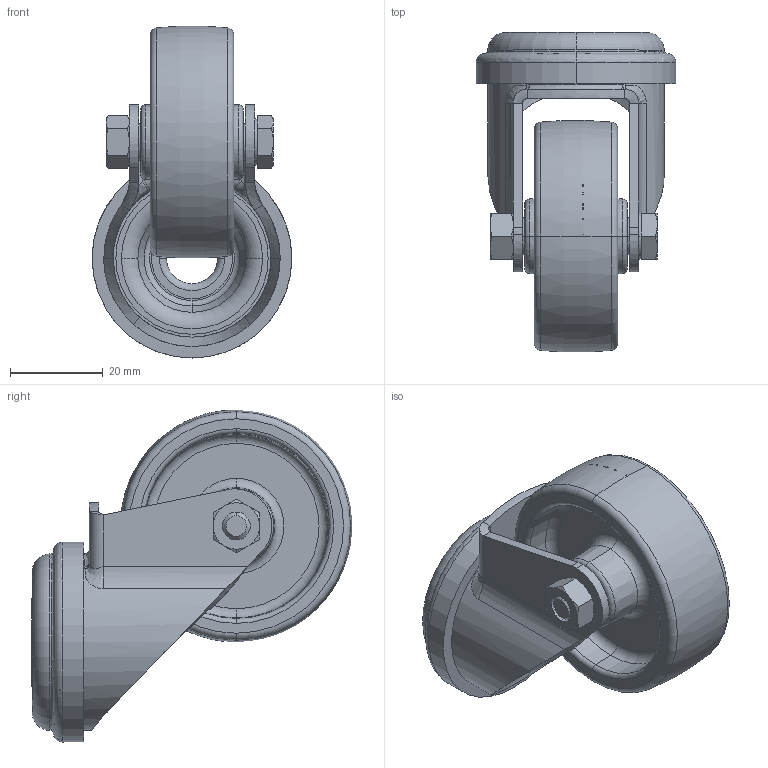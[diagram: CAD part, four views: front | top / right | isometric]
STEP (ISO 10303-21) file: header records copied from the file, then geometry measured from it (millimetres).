
FILE_DESCRIPTION (( 'STEP AP214' ), '1' );
FILE_NAME ('LRXA-PO_50G_754995-214.step', '2013-03-30T16:23:21', ( 'Matthias Senn' ), ( 'Blickle Räder+Rollen' ), 'SwSTEP 2.0', 'SolidWorks 2010', '' );
FILE_SCHEMA (( 'AUTOMOTIVE_DESIGN' ));
Length unit declared in the file: millimetre
Products named in the file (5): GH-LRXA_050_G15; AM_LPA_06x27_D8; PO_G15_PO_50_8G_387316; PO-G-R_G15_PO_50_8G_387316; LRXA-PO_50G_754995-214
Assembly tree (4 placements, depth 3):
  LRXA-PO_50G_754995-214
    GH-LRXA_050_G15
    PO_G15_PO_50_8G_387316
      PO-G-R_G15_PO_50_8G_387316
    AM_LPA_06x27_D8
Bounding box: 43 x 68.92 x 71.48 mm (x, y, z)
Volume: 38557.3 mm3; surface area: 20999.9 mm2
Topology: 3 solids, 3 shells, 456 faces, 1134 edges, 727 vertices
Faces by surface type: plane 231, bspline 109, cone 43, torus 38, cylinder 35
Entity records: 26950 total; most frequent: CARTESIAN_POINT 11650, ORIENTED_EDGE 2268, DIRECTION 1762, EDGE_CURVE 1134, VERTEX_POINT 727, LINE 640, VECTOR 640, AXIS2_PLACEMENT_3D 561
